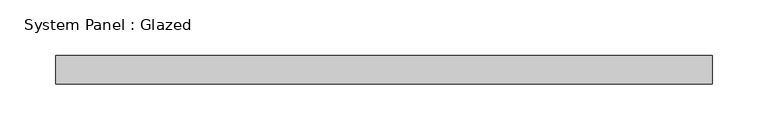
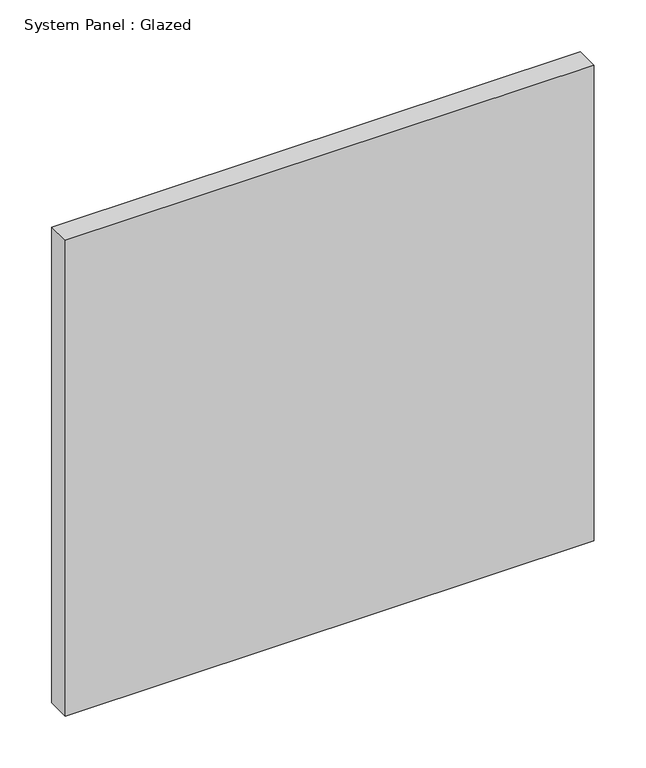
"""IFC4 building model written with IfcOpenShell, lengths in millimetres: plate geometry, System Panel : Glazed."""

from ifc_helpers import new_model, si_unit, origin, origin_with_axes, place, context, project, spatial, polyline, outline, extrude, source, transform, mapped, element, save


def system_panel_glazed_28c059df(model_context):
    return source(origin(), model_context, "Body", "SweptSolid", [
        extrude(outline(polyline([(293.7924409, -12.7), (-293.7924409, -12.7), (-293.7924409, 12.7), (293.7924409, 12.7), (293.7924409, -12.7)])), origin_with_axes(), (0.0, 0.0, 1.0), 558.8),
    ])


if __name__ == "__main__":
    model = new_model("IFC4")
    model_context = context("Model", 3, world=origin())
    ifc_project = project(units=[si_unit("LENGTHUNIT", "METRE", prefix="MILLI")], contexts=[model_context])
    site = spatial("IfcSite", under=ifc_project)
    building = spatial("IfcBuilding", under=site)
    placement = place(None, origin())
    system_panel_glazed_shape = system_panel_glazed_28c059df(model_context)
    element("IfcPlate", 1, ObjectType="System Panel : Glazed", at=placement, inside=building, context=model_context, shape_type="MappedRepresentation", body=[
        mapped(system_panel_glazed_shape, transform((0.0, 0.0, 0.0), x_axis=(1.0, 0.0, 0.0), y_axis=(0.0, 1.0, 0.0), z_axis=(0.0, 0.0, 1.0))),
    ])
    save(model, "model.ifc")
